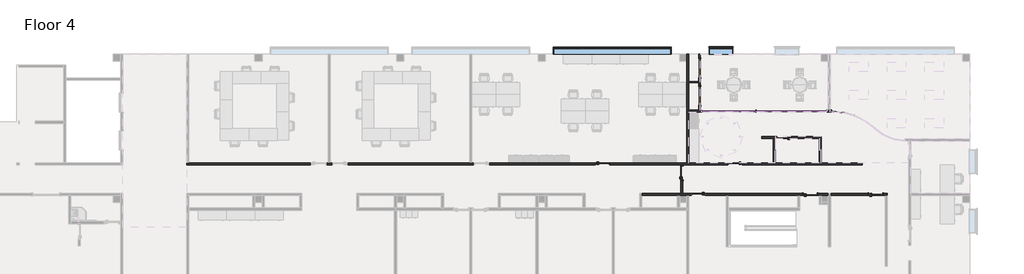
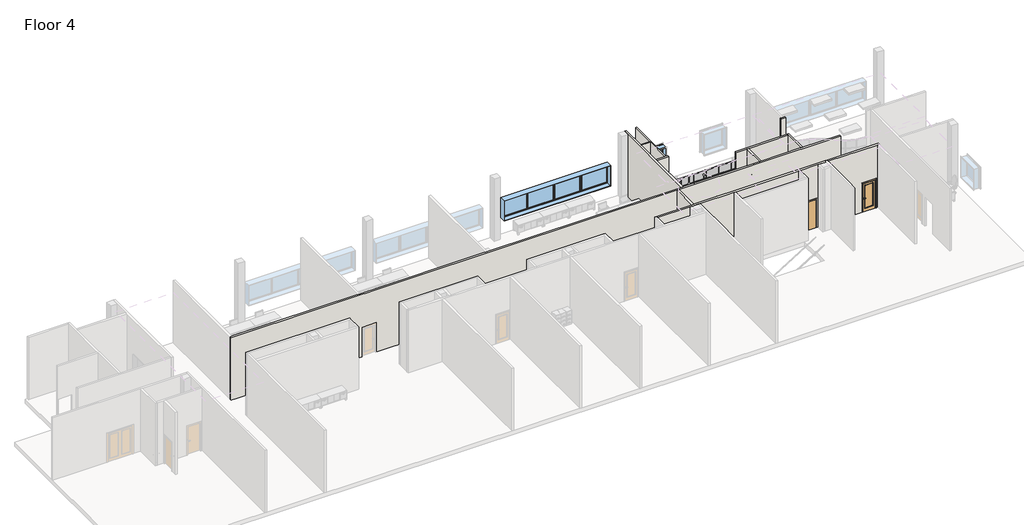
# One storey, part 3 of 6: 50 members, 19 plates, 12 walls, 10 doors, 2 windows.
"""IFC4 building model written with IfcOpenShell, lengths in millimetres."""

from ifc_helpers import new_model, si_unit, frame, origin, place, context, project, spatial, polyline, outline, extrude, faceted_brep, transform, mapped, element, save
from components import door_curtain_wall_single_glass_door_curtain_wall_single_9586b40b, door_f69827bf, door_36f17018, door_a46f4f49, door_4cfbdd5f, door_4a7c4c71, door_b5f71497, door_dac99271, member_997af995, member_2ca0dabc, member_8ca96f9c, member_83dfa611, member_8963dcaa, member_f846ac2e, member_48a22cbc, member_fbd506e6, member_f5b6ef6d, system_panel_glazed_9da17e9e, system_panel_glazed_9f0f34b9, system_panel_glazed_eecf021d, system_panel_glazed_c5d29413, system_panel_glazed_dc5c6d86, system_panel_glazed_1c5266c5, window_casement_multi_sash_horizontal_25_x_5ft_0e5d08e3, window_45f0c9e0

model = new_model("IFC4")

# Units and contexts
model_context = context("Model", 3, world=origin())
ifc_project = project(units=[si_unit("LENGTHUNIT", "METRE", prefix="MILLI")], contexts=[model_context])

# Site, building, storey
site = spatial("IfcSite", under=ifc_project)
building = spatial("IfcBuilding", under=site)
storey = spatial("IfcBuildingStorey", under=building, Name="Floor 4", Elevation=14935.2)

# Doors
placement = place(None, origin())
door_curtain_wall_single_glass_door_curtain_wall_single_shape = door_curtain_wall_single_glass_door_curtain_wall_single_9586b40b(model_context)
element("IfcDoor", 1, ObjectType="Door-Curtain-Wall-Single-Glass : Door-Curtain-Wall-Single-Glass", at=placement, inside=storey, context=model_context, shape_type="MappedRepresentation", body=[
    mapped(door_curtain_wall_single_glass_door_curtain_wall_single_shape, transform((47338.2735924, 53682.111889, 14960.6), x_axis=(-1.0, 0.0, 0.0), y_axis=(0.0, -1.0, 0.0), z_axis=(0.0, 0.0, 1.0))),
])
door_shape = door_f69827bf(model_context)
element("IfcDoor", 2, ObjectType="Door-Double-Flush_Panel : 48\" x 84\"", at=placement, inside=storey, context=model_context, shape_type="MappedRepresentation", body=[
    mapped(door_shape, transform((44045.2192024, 56452.299389, 14935.2), x_axis=(0.0, -1.0, 0.0), y_axis=(1.0, 0.0, 0.0), z_axis=(0.0, 0.0, 1.0))),
])
element("IfcDoor", 3, ObjectType="Door-Double-Flush_Panel : 48\" x 84\"", at=placement, inside=storey, context=model_context, shape_type="MappedRepresentation", body=[
    mapped(door_shape, transform((44045.2192024, 54660.011889, 14935.2), x_axis=(0.0, -1.0, 0.0), y_axis=(1.0, 0.0, 0.0), z_axis=(0.0, 0.0, 1.0))),
])
door_2_shape = door_36f17018(model_context)
element("IfcDoor", 4, ObjectType="Door-Passage-Single-Flush : 36\" x 84\"", at=placement, inside=storey, context=model_context, shape_type="MappedRepresentation", body=[
    mapped(door_2_shape, transform((51188.9692024, 48297.311889, 14935.2), x_axis=(1.0, 0.0, 0.0), y_axis=(0.0, 1.0, 0.0), z_axis=(0.0, 0.0, 1.0))),
])
element("IfcDoor", 5, ObjectType="Door-Passage-Single-Flush : 36\" x 84\"", at=placement, inside=storey, context=model_context, shape_type="MappedRepresentation", body=[
    mapped(door_2_shape, transform((43969.0192024, 48284.611889, 14935.2), x_axis=(-1.0, 0.0, 0.0), y_axis=(0.0, -1.0, 0.0), z_axis=(0.0, 0.0, 1.0))),
])
door_3_shape = door_a46f4f49(model_context)
element("IfcDoor", 6, ObjectType="Door-Passage-Single-Flush : 36\" x 84\"", at=placement, inside=storey, context=model_context, shape_type="MappedRepresentation", body=[
    mapped(door_3_shape, transform((42905.8258878, 49675.261889, 14935.2), x_axis=(0.0, 1.0, 0.0), y_axis=(-1.0, 0.0, 0.0), z_axis=(0.0, 0.0, 1.0))),
])
door_4_shape = door_4cfbdd5f(model_context)
element("IfcDoor", 7, ObjectType="Door-Passage-Single-Full_Lite : 36\" x 84\"", at=placement, inside=storey, context=model_context, shape_type="MappedRepresentation", body=[
    mapped(door_4_shape, transform((46331.2192024, 50253.111889, 14935.2), x_axis=(-1.0, 0.0, 0.0), y_axis=(0.0, -1.0, 0.0), z_axis=(0.0, 0.0, 1.0))),
])
door_5_shape = door_4a7c4c71(model_context)
element("IfcDoor", 8, ObjectType="Door-Passage-Single-Full_Lite : 36\" x 84\"", at=placement, inside=storey, context=model_context, shape_type="MappedRepresentation", body=[
    mapped(door_5_shape, transform((37777.7692024, 50253.111889, 14935.2), x_axis=(1.0, 0.0, 0.0), y_axis=(0.0, 1.0, 0.0), z_axis=(0.0, 0.0, 1.0))),
])
door_6_shape = door_b5f71497(model_context)
element("IfcDoor", 9, ObjectType="Door-Passage-Single-Full_Lite : 36\" x 84\"", at=placement, inside=storey, context=model_context, shape_type="MappedRepresentation", body=[
    mapped(door_6_shape, transform((55424.4192024, 48297.311889, 14935.2), x_axis=(1.0, 0.0, 0.0), y_axis=(0.0, 1.0, 0.0), z_axis=(0.0, 0.0, 1.0))),
])
door_7_shape = door_dac99271(model_context)
element("IfcDoor", 10, ObjectType="Door-Passage-Single-Full_Lite : 36\" x 84\"", at=placement, inside=storey, context=model_context, shape_type="MappedRepresentation", body=[
    mapped(door_7_shape, transform((49487.1692024, 51966.0929346, 14935.2), x_axis=(-1.0, 0.0, 0.0), y_axis=(0.0, -1.0, 0.0), z_axis=(0.0, 0.0, 1.0))),
])

# Members
member_shape = member_997af995(model_context)
element("IfcMember", 11, ObjectType="Rectangular Mullion1 : 1\" Square", at=placement, inside=storey, context=model_context, shape_type="MappedRepresentation", body=[
    mapped(member_shape, transform((51376.2578078, 53682.111889, 14960.6), x_axis=(-1.0, 0.0, 0.0), y_axis=(0.0, 1.0, 0.0), z_axis=(0.0, 0.0, -1.0))),
])
element("IfcMember", 12, ObjectType="Rectangular Mullion1 : 1\" Square", at=placement, inside=storey, context=model_context, shape_type="MappedRepresentation", body=[
    mapped(member_shape, transform((50478.9279821, 53682.111889, 14960.6), x_axis=(-1.0, 0.0, 0.0), y_axis=(0.0, 1.0, 0.0), z_axis=(0.0, 0.0, -1.0))),
])
element("IfcMember", 13, ObjectType="Rectangular Mullion1 : 1\" Square", at=placement, inside=storey, context=model_context, shape_type="MappedRepresentation", body=[
    mapped(member_shape, transform((49581.5981565, 53682.111889, 14960.6), x_axis=(-1.0, 0.0, 0.0), y_axis=(0.0, 1.0, 0.0), z_axis=(0.0, 0.0, -1.0))),
])
element("IfcMember", 14, ObjectType="Rectangular Mullion1 : 1\" Square", at=placement, inside=storey, context=model_context, shape_type="MappedRepresentation", body=[
    mapped(member_shape, transform((48684.2683309, 53682.111889, 14960.6), x_axis=(-1.0, 0.0, 0.0), y_axis=(0.0, 1.0, 0.0), z_axis=(0.0, 0.0, -1.0))),
])
element("IfcMember", 15, ObjectType="Rectangular Mullion1 : 1\" Square", at=placement, inside=storey, context=model_context, shape_type="MappedRepresentation", body=[
    mapped(member_shape, transform((47786.9385052, 53682.111889, 14960.6), x_axis=(-1.0, 0.0, 0.0), y_axis=(0.0, 1.0, 0.0), z_axis=(0.0, 0.0, -1.0))),
])
element("IfcMember", 16, ObjectType="Rectangular Mullion1 : 1\" Square", at=placement, inside=storey, context=model_context, shape_type="MappedRepresentation", body=[
    mapped(member_shape, transform((46889.6086796, 53682.111889, 14960.6), x_axis=(-1.0, 0.0, 0.0), y_axis=(0.0, 1.0, 0.0), z_axis=(0.0, 0.0, -1.0))),
])
element("IfcMember", 17, ObjectType="Rectangular Mullion1 : 1\" Square", at=placement, inside=storey, context=model_context, shape_type="MappedRepresentation", body=[
    mapped(member_shape, transform((45992.2788539, 53682.111889, 14960.6), x_axis=(-1.0, 0.0, 0.0), y_axis=(0.0, 1.0, 0.0), z_axis=(0.0, 0.0, -1.0))),
])
element("IfcMember", 18, ObjectType="Rectangular Mullion1 : 1\" Square", at=placement, inside=storey, context=model_context, shape_type="MappedRepresentation", body=[
    mapped(member_shape, transform((45094.9490283, 53682.111889, 14960.6), x_axis=(-1.0, 0.0, 0.0), y_axis=(0.0, 1.0, 0.0), z_axis=(0.0, 0.0, -1.0))),
])
member_2_shape = member_2ca0dabc(model_context)
element("IfcMember", 19, ObjectType="Rectangular Mullion1 : 1\" Square", at=placement, inside=storey, context=model_context, shape_type="MappedRepresentation", body=[
    mapped(member_2_shape, transform((52578.3876337, 53682.111889, 14960.6), x_axis=(-0.9954937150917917, 0.09482754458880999, 0.0), y_axis=(0.09482754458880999, 0.9954937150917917, 0.0), z_axis=(0.0, 0.0, -1.0))),
])
element("IfcMember", 20, ObjectType="Rectangular Mullion1 : 1\" Square", at=placement, inside=storey, context=model_context, shape_type="MappedRepresentation", body=[
    mapped(member_2_shape, transform((44197.6192024, 53682.111889, 14960.6), x_axis=(-1.0, 0.0, 0.0), y_axis=(0.0, 1.0, 0.0), z_axis=(0.0, 0.0, -1.0))),
])
element("IfcMember", 21, ObjectType="Rectangular Mullion1 : 1\" Square", at=placement, inside=storey, context=model_context, shape_type="MappedRepresentation", body=[
    mapped(member_2_shape, transform((52273.5876337, 53682.111889, 17068.8), x_axis=(1.0, 0.0, 0.0), y_axis=(0.0, 1.0, 0.0), z_axis=(0.0, 0.0, 1.0))),
])
member_3_shape = member_8ca96f9c(model_context)
element("IfcMember", 22, ObjectType="Rectangular Mullion1 : 1\" Square", at=placement, inside=storey, context=model_context, shape_type="MappedRepresentation", body=[
    mapped(member_3_shape, transform((51376.2578078, 53682.111889, 17081.5), x_axis=(-1.0, 0.0, 0.0), y_axis=(0.0, 1.0, 0.0), z_axis=(0.0, 0.0, -1.0))),
])
element("IfcMember", 23, ObjectType="Rectangular Mullion1 : 1\" Square", at=placement, inside=storey, context=model_context, shape_type="MappedRepresentation", body=[
    mapped(member_3_shape, transform((50478.9279821, 53682.111889, 17081.5), x_axis=(-1.0, 0.0, 0.0), y_axis=(0.0, 1.0, 0.0), z_axis=(0.0, 0.0, -1.0))),
])
element("IfcMember", 24, ObjectType="Rectangular Mullion1 : 1\" Square", at=placement, inside=storey, context=model_context, shape_type="MappedRepresentation", body=[
    mapped(member_3_shape, transform((49581.5981565, 53682.111889, 17081.5), x_axis=(-1.0, 0.0, 0.0), y_axis=(0.0, 1.0, 0.0), z_axis=(0.0, 0.0, -1.0))),
])
element("IfcMember", 25, ObjectType="Rectangular Mullion1 : 1\" Square", at=placement, inside=storey, context=model_context, shape_type="MappedRepresentation", body=[
    mapped(member_3_shape, transform((48684.2683309, 53682.111889, 17081.5), x_axis=(-1.0, 0.0, 0.0), y_axis=(0.0, 1.0, 0.0), z_axis=(0.0, 0.0, -1.0))),
])
element("IfcMember", 26, ObjectType="Rectangular Mullion1 : 1\" Square", at=placement, inside=storey, context=model_context, shape_type="MappedRepresentation", body=[
    mapped(member_3_shape, transform((47786.9385052, 53682.111889, 17081.5), x_axis=(-1.0, 0.0, 0.0), y_axis=(0.0, 1.0, 0.0), z_axis=(0.0, 0.0, -1.0))),
])
element("IfcMember", 27, ObjectType="Rectangular Mullion1 : 1\" Square", at=placement, inside=storey, context=model_context, shape_type="MappedRepresentation", body=[
    mapped(member_3_shape, transform((46889.6086796, 53682.111889, 17081.5), x_axis=(-1.0, 0.0, 0.0), y_axis=(0.0, 1.0, 0.0), z_axis=(0.0, 0.0, -1.0))),
])
element("IfcMember", 28, ObjectType="Rectangular Mullion1 : 1\" Square", at=placement, inside=storey, context=model_context, shape_type="MappedRepresentation", body=[
    mapped(member_3_shape, transform((45992.2788539, 53682.111889, 17081.5), x_axis=(-1.0, 0.0, 0.0), y_axis=(0.0, 1.0, 0.0), z_axis=(0.0, 0.0, -1.0))),
])
element("IfcMember", 29, ObjectType="Rectangular Mullion1 : 1\" Square", at=placement, inside=storey, context=model_context, shape_type="MappedRepresentation", body=[
    mapped(member_3_shape, transform((45094.9490283, 53682.111889, 17081.5), x_axis=(-1.0, 0.0, 0.0), y_axis=(0.0, 1.0, 0.0), z_axis=(0.0, 0.0, -1.0))),
])
member_4_shape = member_83dfa611(model_context)
element("IfcMember", 30, ObjectType="Rectangular Mullion1 : 1\" Square", at=placement, inside=storey, context=model_context, shape_type="MappedRepresentation", body=[
    mapped(member_4_shape, transform((52603.6731741, 53679.7032694, 17068.8), x_axis=(0.0, 0.0, 1.0), y_axis=(0.09482754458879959, 0.9954937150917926, 0.0), z_axis=(-0.9954937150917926, 0.09482754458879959, 0.0))),
])
member_5_shape = member_8963dcaa(model_context)
element("IfcMember", 31, ObjectType="Rectangular Mullion1 : 1\" Square", at=placement, inside=storey, context=model_context, shape_type="MappedRepresentation", body=[
    mapped(member_5_shape, transform((52273.5876337, 53682.111889, 17653.0), x_axis=(1.0, 0.0, 0.0), y_axis=(0.0, 1.0, 0.0), z_axis=(0.0, 0.0, 1.0))),
])
element("IfcMember", 32, ObjectType="Rectangular Mullion1 : 1\" Square", at=placement, inside=storey, context=model_context, shape_type="MappedRepresentation", body=[
    mapped(member_5_shape, transform((52578.3876337, 53682.111889, 17068.8), x_axis=(-0.9954937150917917, 0.09482754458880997, 0.0), y_axis=(0.09482754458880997, 0.9954937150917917, 0.0), z_axis=(0.0, 0.0, -1.0))),
])
element("IfcMember", 33, ObjectType="Rectangular Mullion1 : 1\" Square", at=placement, inside=storey, context=model_context, shape_type="MappedRepresentation", body=[
    mapped(member_5_shape, transform((44197.6192024, 53682.111889, 17068.8), x_axis=(-1.0, 0.0, 0.0), y_axis=(0.0, 1.0, 0.0), z_axis=(0.0, 0.0, -1.0))),
])
member_6_shape = member_f846ac2e(model_context)
element("IfcMember", 34, ObjectType="Rectangular Mullion1 : 1\" Square", at=placement, inside=storey, context=model_context, shape_type="MappedRepresentation", body=[
    mapped(member_6_shape, transform((52273.5876337, 53682.111889, 14935.2), x_axis=(0.0, 0.0, -1.0), y_axis=(0.0, 1.0, 0.0), z_axis=(1.0, 0.0, 0.0))),
])
member_7_shape = member_48a22cbc(model_context)
element("IfcMember", 35, ObjectType="Rectangular Mullion1 : 1\" Square", at=placement, inside=storey, context=model_context, shape_type="MappedRepresentation", body=[
    mapped(member_7_shape, transform((51376.2578078, 53682.111889, 14935.2), x_axis=(0.0, 0.0, -1.0), y_axis=(0.0, 1.0, 0.0), z_axis=(1.0, 0.0, 0.0))),
])
element("IfcMember", 36, ObjectType="Rectangular Mullion1 : 1\" Square", at=placement, inside=storey, context=model_context, shape_type="MappedRepresentation", body=[
    mapped(member_7_shape, transform((50478.9279821, 53682.111889, 14935.2), x_axis=(0.0, 0.0, -1.0), y_axis=(0.0, 1.0, 0.0), z_axis=(1.0, 0.0, 0.0))),
])
element("IfcMember", 37, ObjectType="Rectangular Mullion1 : 1\" Square", at=placement, inside=storey, context=model_context, shape_type="MappedRepresentation", body=[
    mapped(member_7_shape, transform((49581.5981565, 53682.111889, 14935.2), x_axis=(0.0, 0.0, -1.0), y_axis=(0.0, 1.0, 0.0), z_axis=(1.0, 0.0, 0.0))),
])
element("IfcMember", 38, ObjectType="Rectangular Mullion1 : 1\" Square", at=placement, inside=storey, context=model_context, shape_type="MappedRepresentation", body=[
    mapped(member_7_shape, transform((48684.2683309, 53682.111889, 14935.2), x_axis=(0.0, 0.0, -1.0), y_axis=(0.0, 1.0, 0.0), z_axis=(1.0, 0.0, 0.0))),
])
element("IfcMember", 39, ObjectType="Rectangular Mullion1 : 1\" Square", at=placement, inside=storey, context=model_context, shape_type="MappedRepresentation", body=[
    mapped(member_7_shape, transform((47786.9385052, 53682.111889, 14935.2), x_axis=(0.0, 0.0, -1.0), y_axis=(0.0, 1.0, 0.0), z_axis=(1.0, 0.0, 0.0))),
])
element("IfcMember", 40, ObjectType="Rectangular Mullion1 : 1\" Square", at=placement, inside=storey, context=model_context, shape_type="MappedRepresentation", body=[
    mapped(member_7_shape, transform((46889.6086796, 53682.111889, 14935.2), x_axis=(0.0, 0.0, -1.0), y_axis=(0.0, 1.0, 0.0), z_axis=(1.0, 0.0, 0.0))),
])
element("IfcMember", 41, ObjectType="Rectangular Mullion1 : 1\" Square", at=placement, inside=storey, context=model_context, shape_type="MappedRepresentation", body=[
    mapped(member_7_shape, transform((45992.2788539, 53682.111889, 14935.2), x_axis=(0.0, 0.0, -1.0), y_axis=(0.0, 1.0, 0.0), z_axis=(1.0, 0.0, 0.0))),
])
element("IfcMember", 42, ObjectType="Rectangular Mullion1 : 1\" Square", at=placement, inside=storey, context=model_context, shape_type="MappedRepresentation", body=[
    mapped(member_6_shape, transform((45094.9490283, 53682.111889, 14935.2), x_axis=(0.0, 0.0, -1.0), y_axis=(0.0, 1.0, 0.0), z_axis=(1.0, 0.0, 0.0))),
])
member_8_shape = member_fbd506e6(model_context)
element("IfcMember", 43, ObjectType="Rectangular Mullion1 : 1\" Square", at=placement, inside=storey, context=model_context, shape_type="MappedRepresentation", body=[
    mapped(member_8_shape, transform((51376.2578078, 53682.111889, 17068.8), x_axis=(0.0, 0.0, 1.0), y_axis=(0.0, 1.0, 0.0), z_axis=(-1.0, 0.0, 0.0))),
])
member_9_shape = member_f5b6ef6d(model_context)
element("IfcMember", 44, ObjectType="Rectangular Mullion1 : 1\" Square", at=placement, inside=storey, context=model_context, shape_type="MappedRepresentation", body=[
    mapped(member_9_shape, transform((50478.9279821, 53682.111889, 17068.8), x_axis=(0.0, 0.0, 1.0), y_axis=(0.0, 1.0, 0.0), z_axis=(-1.0, 0.0, 0.0))),
])
element("IfcMember", 45, ObjectType="Rectangular Mullion1 : 1\" Square", at=placement, inside=storey, context=model_context, shape_type="MappedRepresentation", body=[
    mapped(member_9_shape, transform((49581.5981565, 53682.111889, 17068.8), x_axis=(0.0, 0.0, 1.0), y_axis=(0.0, 1.0, 0.0), z_axis=(-1.0, 0.0, 0.0))),
])
element("IfcMember", 46, ObjectType="Rectangular Mullion1 : 1\" Square", at=placement, inside=storey, context=model_context, shape_type="MappedRepresentation", body=[
    mapped(member_9_shape, transform((48684.2683309, 53682.111889, 17068.8), x_axis=(0.0, 0.0, 1.0), y_axis=(0.0, 1.0, 0.0), z_axis=(-1.0, 0.0, 0.0))),
])
element("IfcMember", 47, ObjectType="Rectangular Mullion1 : 1\" Square", at=placement, inside=storey, context=model_context, shape_type="MappedRepresentation", body=[
    mapped(member_9_shape, transform((47786.9385052, 53682.111889, 17068.8), x_axis=(0.0, 0.0, 1.0), y_axis=(0.0, 1.0, 0.0), z_axis=(-1.0, 0.0, 0.0))),
])
element("IfcMember", 48, ObjectType="Rectangular Mullion1 : 1\" Square", at=placement, inside=storey, context=model_context, shape_type="MappedRepresentation", body=[
    mapped(member_9_shape, transform((46889.6086796, 53682.111889, 17068.8), x_axis=(0.0, 0.0, 1.0), y_axis=(0.0, 1.0, 0.0), z_axis=(-1.0, 0.0, 0.0))),
])
element("IfcMember", 49, ObjectType="Rectangular Mullion1 : 1\" Square", at=placement, inside=storey, context=model_context, shape_type="MappedRepresentation", body=[
    mapped(member_9_shape, transform((45992.2788539, 53682.111889, 17068.8), x_axis=(0.0, 0.0, 1.0), y_axis=(0.0, 1.0, 0.0), z_axis=(-1.0, 0.0, 0.0))),
])
element("IfcMember", 50, ObjectType="Rectangular Mullion1 : 1\" Square", at=placement, inside=storey, context=model_context, shape_type="MappedRepresentation", body=[
    mapped(member_9_shape, transform((45094.9490283, 53682.111889, 17068.8), x_axis=(0.0, 0.0, 1.0), y_axis=(0.0, 1.0, 0.0), z_axis=(-1.0, 0.0, 0.0))),
])
element("IfcMember", 51, ObjectType="Rectangular Mullion1 : 1\" Square", at=placement, inside=storey, context=model_context, shape_type="MappedRepresentation", body=[
    mapped(member_8_shape, transform((44223.0192024, 53682.111889, 17068.8), x_axis=(0.0, 0.0, 1.0), y_axis=(0.0, 1.0, 0.0), z_axis=(-1.0, 0.0, 0.0))),
])
element("IfcMember", 52, ObjectType="Rectangular Mullion1 : 1\" Square", at=placement, inside=storey, context=model_context, shape_type="MappedRepresentation", body=[
    mapped(member_6_shape, transform((44197.6192024, 53682.111889, 17678.4), x_axis=(0.0, 0.0, 1.0), y_axis=(0.0, 1.0, 0.0), z_axis=(-1.0, 0.0, 0.0))),
])
element("IfcMember", 53, ObjectType="Rectangular Mullion1 : 1\" Square", at=placement, inside=storey, context=model_context, shape_type="MappedRepresentation", body=[
    mapped(member_6_shape, transform((51376.2578078, 53682.111889, 17678.4), x_axis=(0.0, 0.0, 1.0), y_axis=(0.0, 1.0, 0.0), z_axis=(-1.0, 0.0, 0.0))),
])
element("IfcMember", 54, ObjectType="Rectangular Mullion1 : 1\" Square", at=placement, inside=storey, context=model_context, shape_type="MappedRepresentation", body=[
    mapped(member_7_shape, transform((50478.9279821, 53682.111889, 17678.4), x_axis=(0.0, 0.0, 1.0), y_axis=(0.0, 1.0, 0.0), z_axis=(-1.0, 0.0, 0.0))),
])
element("IfcMember", 55, ObjectType="Rectangular Mullion1 : 1\" Square", at=placement, inside=storey, context=model_context, shape_type="MappedRepresentation", body=[
    mapped(member_7_shape, transform((49581.5981565, 53682.111889, 17678.4), x_axis=(0.0, 0.0, 1.0), y_axis=(0.0, 1.0, 0.0), z_axis=(-1.0, 0.0, 0.0))),
])
element("IfcMember", 56, ObjectType="Rectangular Mullion1 : 1\" Square", at=placement, inside=storey, context=model_context, shape_type="MappedRepresentation", body=[
    mapped(member_7_shape, transform((48684.2683309, 53682.111889, 17678.4), x_axis=(0.0, 0.0, 1.0), y_axis=(0.0, 1.0, 0.0), z_axis=(-1.0, 0.0, 0.0))),
])
element("IfcMember", 57, ObjectType="Rectangular Mullion1 : 1\" Square", at=placement, inside=storey, context=model_context, shape_type="MappedRepresentation", body=[
    mapped(member_7_shape, transform((47786.9385052, 53682.111889, 17678.4), x_axis=(0.0, 0.0, 1.0), y_axis=(0.0, 1.0, 0.0), z_axis=(-1.0, 0.0, 0.0))),
])
element("IfcMember", 58, ObjectType="Rectangular Mullion1 : 1\" Square", at=placement, inside=storey, context=model_context, shape_type="MappedRepresentation", body=[
    mapped(member_7_shape, transform((46889.6086796, 53682.111889, 17678.4), x_axis=(0.0, 0.0, 1.0), y_axis=(0.0, 1.0, 0.0), z_axis=(-1.0, 0.0, 0.0))),
])
element("IfcMember", 59, ObjectType="Rectangular Mullion1 : 1\" Square", at=placement, inside=storey, context=model_context, shape_type="MappedRepresentation", body=[
    mapped(member_7_shape, transform((45992.2788539, 53682.111889, 17678.4), x_axis=(0.0, 0.0, 1.0), y_axis=(0.0, 1.0, 0.0), z_axis=(-1.0, 0.0, 0.0))),
])
element("IfcMember", 60, ObjectType="Rectangular Mullion1 : 1\" Square", at=placement, inside=storey, context=model_context, shape_type="MappedRepresentation", body=[
    mapped(member_7_shape, transform((45094.9490283, 53682.111889, 17678.4), x_axis=(0.0, 0.0, 1.0), y_axis=(0.0, 1.0, 0.0), z_axis=(-1.0, 0.0, 0.0))),
])

# Plates
system_panel_glazed_shape = system_panel_glazed_9da17e9e(model_context)
element("IfcPlate", 61, ObjectType="System Panel : Glazed", at=placement, inside=storey, context=model_context, shape_type="MappedRepresentation", body=[
    mapped(system_panel_glazed_shape, transform((52977.9425946, 53644.0515625, 14960.6), x_axis=(-0.9954937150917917, 0.09482754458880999, 0.0), y_axis=(-0.09482754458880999, -0.9954937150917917, 0.0), z_axis=(0.0, 0.0, 1.0))),
])
system_panel_glazed_2_shape = system_panel_glazed_9f0f34b9(model_context)
element("IfcPlate", 62, ObjectType="System Panel : Glazed", at=placement, inside=storey, context=model_context, shape_type="MappedRepresentation", body=[
    mapped(system_panel_glazed_2_shape, transform((52977.9425946, 53644.0515625, 17081.5), x_axis=(-0.9954937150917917, 0.09482754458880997, 0.0), y_axis=(-0.09482754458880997, -0.9954937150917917, 0.0), z_axis=(0.0, 0.0, 1.0))),
])
system_panel_glazed_3_shape = system_panel_glazed_eecf021d(model_context)
element("IfcPlate", 63, ObjectType="System Panel : Glazed", at=placement, inside=storey, context=model_context, shape_type="MappedRepresentation", body=[
    mapped(system_panel_glazed_3_shape, transform((51818.5727207, 53682.111889, 14960.6), x_axis=(-1.0, 0.0, 0.0), y_axis=(0.0, -1.0, 0.0), z_axis=(0.0, 0.0, 1.0))),
])
element("IfcPlate", 64, ObjectType="System Panel : Glazed", at=placement, inside=storey, context=model_context, shape_type="MappedRepresentation", body=[
    mapped(system_panel_glazed_3_shape, transform((44652.6341153, 53682.111889, 14960.6), x_axis=(-1.0, 0.0, 0.0), y_axis=(0.0, -1.0, 0.0), z_axis=(0.0, 0.0, 1.0))),
])
system_panel_glazed_4_shape = system_panel_glazed_c5d29413(model_context)
element("IfcPlate", 65, ObjectType="System Panel : Glazed", at=placement, inside=storey, context=model_context, shape_type="MappedRepresentation", body=[
    mapped(system_panel_glazed_4_shape, transform((50927.5928949, 53682.111889, 14960.6), x_axis=(-1.0, 0.0, 0.0), y_axis=(0.0, -1.0, 0.0), z_axis=(0.0, 0.0, 1.0))),
])
element("IfcPlate", 66, ObjectType="System Panel : Glazed", at=placement, inside=storey, context=model_context, shape_type="MappedRepresentation", body=[
    mapped(system_panel_glazed_4_shape, transform((50030.2630693, 53682.111889, 14960.6), x_axis=(-1.0, 0.0, 0.0), y_axis=(0.0, -1.0, 0.0), z_axis=(0.0, 0.0, 1.0))),
])
element("IfcPlate", 67, ObjectType="System Panel : Glazed", at=placement, inside=storey, context=model_context, shape_type="MappedRepresentation", body=[
    mapped(system_panel_glazed_4_shape, transform((49132.9332437, 53682.111889, 14960.6), x_axis=(-1.0, 0.0, 0.0), y_axis=(0.0, -1.0, 0.0), z_axis=(0.0, 0.0, 1.0))),
])
element("IfcPlate", 68, ObjectType="System Panel : Glazed", at=placement, inside=storey, context=model_context, shape_type="MappedRepresentation", body=[
    mapped(system_panel_glazed_4_shape, transform((48235.603418, 53682.111889, 14960.6), x_axis=(-1.0, 0.0, 0.0), y_axis=(0.0, -1.0, 0.0), z_axis=(0.0, 0.0, 1.0))),
])
element("IfcPlate", 69, ObjectType="System Panel : Glazed", at=placement, inside=storey, context=model_context, shape_type="MappedRepresentation", body=[
    mapped(system_panel_glazed_4_shape, transform((46440.9437668, 53682.111889, 14960.6), x_axis=(-1.0, 0.0, 0.0), y_axis=(0.0, -1.0, 0.0), z_axis=(0.0, 0.0, 1.0))),
])
element("IfcPlate", 70, ObjectType="System Panel : Glazed", at=placement, inside=storey, context=model_context, shape_type="MappedRepresentation", body=[
    mapped(system_panel_glazed_4_shape, transform((45543.6139411, 53682.111889, 14960.6), x_axis=(-1.0, 0.0, 0.0), y_axis=(0.0, -1.0, 0.0), z_axis=(0.0, 0.0, 1.0))),
])
system_panel_glazed_5_shape = system_panel_glazed_dc5c6d86(model_context)
element("IfcPlate", 71, ObjectType="System Panel : Glazed", at=placement, inside=storey, context=model_context, shape_type="MappedRepresentation", body=[
    mapped(system_panel_glazed_5_shape, transform((51818.5727207, 53682.111889, 17081.5), x_axis=(-1.0, 0.0, 0.0), y_axis=(0.0, -1.0, 0.0), z_axis=(0.0, 0.0, 1.0))),
])
element("IfcPlate", 72, ObjectType="System Panel : Glazed", at=placement, inside=storey, context=model_context, shape_type="MappedRepresentation", body=[
    mapped(system_panel_glazed_5_shape, transform((44652.6341153, 53682.111889, 17081.5), x_axis=(-1.0, 0.0, 0.0), y_axis=(0.0, -1.0, 0.0), z_axis=(0.0, 0.0, 1.0))),
])
system_panel_glazed_6_shape = system_panel_glazed_1c5266c5(model_context)
element("IfcPlate", 73, ObjectType="System Panel : Glazed", at=placement, inside=storey, context=model_context, shape_type="MappedRepresentation", body=[
    mapped(system_panel_glazed_6_shape, transform((50927.5928949, 53682.111889, 17081.5), x_axis=(-1.0, 0.0, 0.0), y_axis=(0.0, -1.0, 0.0), z_axis=(0.0, 0.0, 1.0))),
])
element("IfcPlate", 74, ObjectType="System Panel : Glazed", at=placement, inside=storey, context=model_context, shape_type="MappedRepresentation", body=[
    mapped(system_panel_glazed_6_shape, transform((50030.2630693, 53682.111889, 17081.5), x_axis=(-1.0, 0.0, 0.0), y_axis=(0.0, -1.0, 0.0), z_axis=(0.0, 0.0, 1.0))),
])
element("IfcPlate", 75, ObjectType="System Panel : Glazed", at=placement, inside=storey, context=model_context, shape_type="MappedRepresentation", body=[
    mapped(system_panel_glazed_6_shape, transform((49132.9332437, 53682.111889, 17081.5), x_axis=(-1.0, 0.0, 0.0), y_axis=(0.0, -1.0, 0.0), z_axis=(0.0, 0.0, 1.0))),
])
element("IfcPlate", 76, ObjectType="System Panel : Glazed", at=placement, inside=storey, context=model_context, shape_type="MappedRepresentation", body=[
    mapped(system_panel_glazed_6_shape, transform((48235.603418, 53682.111889, 17081.5), x_axis=(-1.0, 0.0, 0.0), y_axis=(0.0, -1.0, 0.0), z_axis=(0.0, 0.0, 1.0))),
])
element("IfcPlate", 77, ObjectType="System Panel : Glazed", at=placement, inside=storey, context=model_context, shape_type="MappedRepresentation", body=[
    mapped(system_panel_glazed_6_shape, transform((47338.2735924, 53682.111889, 17081.5), x_axis=(-1.0, 0.0, 0.0), y_axis=(0.0, -1.0, 0.0), z_axis=(0.0, 0.0, 1.0))),
])
element("IfcPlate", 78, ObjectType="System Panel : Glazed", at=placement, inside=storey, context=model_context, shape_type="MappedRepresentation", body=[
    mapped(system_panel_glazed_6_shape, transform((46440.9437668, 53682.111889, 17081.5), x_axis=(-1.0, 0.0, 0.0), y_axis=(0.0, -1.0, 0.0), z_axis=(0.0, 0.0, 1.0))),
])
element("IfcPlate", 79, ObjectType="System Panel : Glazed", at=placement, inside=storey, context=model_context, shape_type="MappedRepresentation", body=[
    mapped(system_panel_glazed_6_shape, transform((45543.6139411, 53682.111889, 17081.5), x_axis=(-1.0, 0.0, 0.0), y_axis=(0.0, -1.0, 0.0), z_axis=(0.0, 0.0, 1.0))),
])

# Walls
element("IfcWall", 80, ObjectType="Interior - 3 1/8\" Partition (1-hr)", at=placement, inside=storey, context=model_context, shape_type="Brep", body=[
    faceted_brep([(44084.9067024, 53744.024389, 19659.6), (44084.9067024, 57366.699389, 19659.6), (44005.5317024, 57366.699389, 19659.6), (44005.5317024, 55595.843139, 19659.6), (44005.5317024, 55516.468139, 19659.6), (44005.5317024, 53744.024389, 19659.6), (44005.5317024, 57366.699389, 14935.2), (44005.5317024, 57061.899389, 14935.2), (44005.5317024, 57061.899389, 17068.8), (44005.5317024, 55842.699389, 17068.8), (44005.5317024, 55842.699389, 14935.2), (44005.5317024, 55595.843139, 14935.2), (44005.5317024, 55516.468139, 14935.2), (44005.5317024, 55269.611889, 14935.2), (44005.5317024, 55269.611889, 17068.8), (44005.5317024, 54050.411889, 17068.8), (44005.5317024, 54050.411889, 14935.2), (44005.5317024, 53744.024389, 14935.2), (44084.9067024, 53744.024389, 14935.2), (44084.9067024, 54050.411889, 14935.2), (44084.9067024, 54050.411889, 17068.8), (44084.9067024, 55269.611889, 17068.8), (44084.9067024, 55269.611889, 14935.2), (44084.9067024, 55842.699389, 14935.2), (44084.9067024, 55842.699389, 17068.8), (44084.9067024, 57061.899389, 17068.8), (44084.9067024, 57061.899389, 14935.2), (44084.9067024, 57366.699389, 14935.2)], [[[0, 1, 2, 3, 4, 5]], [[5, 4, 3, 2, 6, 7, 8, 9, 10, 11, 12, 13, 14, 15, 16, 17]], [[1, 0, 18, 19, 20, 21, 22, 23, 24, 25, 26, 27]], [[18, 17, 16, 19]], [[6, 27, 26, 7]], [[10, 23, 22, 13, 12, 11]], [[18, 0, 5, 17]], [[1, 27, 6, 2]], [[9, 24, 23, 10]], [[24, 9, 8, 25]], [[25, 8, 7, 26]], [[15, 20, 19, 16]], [[20, 15, 14, 21]], [[21, 14, 13, 22]]]),
])
element("IfcWall", 81, ObjectType="Interior - 3 1/8\" Partition (1-hr)", at=placement, inside=storey, context=model_context, shape_type="SweptSolid", body=[
    extrude(outline(polyline([(43353.0692024, 55595.843139), (44005.5317024, 55595.843139), (44005.5317024, 55516.468139), (43353.0692024, 55516.468139), (43353.0692024, 55595.843139)])), frame((0.0, 0.0, 14935.2), z_axis=(0.0, 0.0, 1.0), x_axis=(1.0, 0.0, 0.0)), (0.0, 0.0, 1.0), 4724.4),
])
element("IfcWall", 82, ObjectType="Interior - 4 7/8\" Partition (1-hr)", at=placement, inside=storey, context=model_context, shape_type="Brep", body=[
    faceted_brep([(52578.3876337, 53744.024389, 14935.2), (52489.1317024, 53744.024389, 14935.2), (52365.3067024, 53744.024389, 14935.2), (52273.5876337, 53744.024389, 14935.2), (52273.5876337, 53744.024389, 19659.6), (52365.3067024, 53744.024389, 19659.6), (52489.1317024, 53744.024389, 19659.6), (52578.3876337, 53744.024389, 19659.6), (52578.3876337, 53620.199389, 14935.2), (52578.3876337, 53620.199389, 19659.6), (52273.5876337, 53620.199389, 19659.6), (52273.5876337, 53620.199389, 14935.2)], [[[0, 1, 2, 3, 4, 5, 6, 7]], [[8, 9, 10, 11]], [[3, 2, 1, 0, 8, 11]], [[4, 3, 11, 10]], [[7, 6, 5, 4, 10, 9]], [[0, 7, 9, 8]]]),
])
element("IfcWall", 83, ObjectType="Interior - 4 7/8\" Partition (1-hr)", at=placement, inside=storey, context=model_context, shape_type="SweptSolid", body=[
    extrude(outline(polyline([(48939.4817024, 51897.8304346), (48939.4817024, 50329.311889), (48815.6567024, 50329.311889), (48815.6567024, 51897.8304346), (48939.4817024, 51897.8304346)])), frame((0.0, 0.0, 14935.2), z_axis=(0.0, 0.0, 1.0), x_axis=(1.0, 0.0, 0.0)), (0.0, 0.0, 1.0), 4724.4),
])
element("IfcWall", 84, ObjectType="Interior - 4 7/8\" Partition (1-hr)", at=placement, inside=storey, context=model_context, shape_type="Brep", body=[
    faceted_brep([(48053.6567024, 52021.6554346, 19659.6), (48053.6567024, 52021.6554346, 14935.2), (48053.6567024, 51897.8304346, 14935.2), (48053.6567024, 51897.8304346, 19659.6), (51768.4067024, 52021.6554346, 19659.6), (48815.6567024, 51897.8304346, 19659.6), (48939.4817024, 51897.8304346, 19659.6), (51768.4067024, 51897.8304346, 19659.6), (48815.6567024, 51897.8304346, 14935.2), (48939.4817024, 51897.8304346, 14935.2), (48979.1692024, 51897.8304346, 14935.2), (48979.1692024, 51897.8304346, 17170.4), (49995.1692024, 51897.8304346, 17170.4), (49995.1692024, 51897.8304346, 14935.2), (51768.4067024, 51897.8304346, 14935.2), (48979.1692024, 52021.6554346, 17170.4), (48979.1692024, 52021.6554346, 14935.2), (51768.4067024, 52021.6554346, 14935.2), (49995.1692024, 52021.6554346, 14935.2), (49995.1692024, 52021.6554346, 17170.4)], [[[0, 1, 2, 3]], [[4, 0, 3, 5, 6, 7]], [[2, 8, 9, 10, 11, 12, 13, 14, 7, 6, 5, 3]], [[15, 16, 1, 0, 4, 17, 18, 19]], [[1, 16, 10, 9, 8, 2]], [[18, 17, 14, 13]], [[17, 4, 7, 14]], [[11, 10, 16, 15]], [[12, 11, 15, 19]], [[13, 12, 19, 18]]]),
])
element("IfcWall", 85, ObjectType="Interior - 4 7/8\" Partition (1-hr)", at=placement, inside=storey, context=model_context, shape_type="Brep", body=[
    faceted_brep([(52509.7692024, 48229.049389, 19659.6), (56048.3067024, 48229.049389, 19659.6), (56172.1317024, 48229.049389, 19659.6), (56172.1317024, 48352.874389, 19659.6), (52509.7692024, 48352.874389, 19659.6), (56172.1317024, 48352.874389, 14935.2), (55932.4192024, 48352.874389, 14935.2), (55932.4192024, 48352.874389, 17170.4), (54916.4192024, 48352.874389, 17170.4), (54916.4192024, 48352.874389, 14935.2), (52509.7692024, 48352.874389, 14935.2), (55932.4192024, 48229.049389, 17170.4), (55932.4192024, 48229.049389, 14935.2), (56048.3067024, 48229.049389, 14935.2), (56172.1317024, 48229.049389, 14935.2), (52509.7692024, 48229.049389, 14935.2), (54916.4192024, 48229.049389, 14935.2), (54916.4192024, 48229.049389, 17170.4)], [[[0, 1, 2, 3, 4]], [[5, 6, 7, 8, 9, 10, 4, 3]], [[11, 12, 13, 14, 2, 1, 0, 15, 16, 17]], [[14, 13, 12, 6, 5]], [[16, 15, 10, 9]], [[15, 0, 4, 10]], [[2, 14, 5, 3]], [[7, 6, 12, 11]], [[8, 7, 11, 17]], [[9, 8, 17, 16]]]),
])
element("IfcWall", 86, ObjectType="Interior - 4 7/8\" Partition (1-hr)", at=placement, inside=storey, context=model_context, shape_type="Brep", body=[
    faceted_brep([(51768.4067024, 52021.6554346, 14935.2), (51768.4067024, 51897.8304346, 14935.2), (51768.4067024, 50329.311889, 14935.2), (51768.4067024, 50329.311889, 19659.6), (51768.4067024, 51897.8304346, 19659.6), (51768.4067024, 52021.6554346, 19659.6), (51892.2317024, 52021.6554346, 14935.2), (51892.2317024, 52021.6554346, 19659.6), (51892.2317024, 50329.311889, 19659.6), (51892.2317024, 50329.311889, 14935.2)], [[[0, 1, 2, 3, 4, 5]], [[6, 7, 8, 9]], [[2, 1, 0, 6, 9]], [[5, 4, 3, 8, 7]], [[0, 5, 7, 6]], [[3, 2, 9, 8]]]),
])
element("IfcWall", 87, ObjectType="Interior - 4 7/8\" Partition (1-hr)", at=placement, inside=storey, context=model_context, shape_type="Brep", body=[
    faceted_brep([(44197.6192024, 53744.024389, 14935.2), (44084.9067024, 53744.024389, 14935.2), (44005.5317024, 53744.024389, 14935.2), (43353.0692024, 53744.024389, 14935.2), (43353.0692024, 53744.024389, 19659.6), (44005.5317024, 53744.024389, 19659.6), (44084.9067024, 53744.024389, 19659.6), (44197.6192024, 53744.024389, 19659.6), (44197.6192024, 53620.199389, 14935.2), (44197.6192024, 53620.199389, 19659.6), (43353.0692024, 53620.199389, 19659.6), (43353.0692024, 53620.199389, 14935.2)], [[[0, 1, 2, 3, 4, 5, 6, 7]], [[8, 9, 10, 11]], [[3, 2, 1, 0, 8, 11]], [[7, 6, 5, 4, 10, 9]], [[0, 7, 9, 8]], [[4, 3, 11, 10]]]),
])
element("IfcWall", 88, ObjectType="Interior - 5 1/2\" Partition (1-hr)", at=placement, inside=storey, context=model_context, shape_type="Brep", body=[
    faceted_brep([(43353.0692024, 50329.311889, 14935.2), (43353.0692024, 53620.199389, 14935.2), (43353.0692024, 53744.024389, 14935.2), (43353.0692024, 55516.468139, 14935.2), (43353.0692024, 55595.843139, 14935.2), (43353.0692024, 57366.699389, 14935.2), (43353.0692024, 57366.699389, 19659.6), (43353.0692024, 55595.843139, 19659.6), (43353.0692024, 55516.468139, 19659.6), (43353.0692024, 53744.024389, 19659.6), (43353.0692024, 53620.199389, 19659.6), (43353.0692024, 50329.311889, 19659.6), (43213.3692024, 50329.311889, 14935.2), (43213.3692024, 50329.311889, 19659.6), (43213.3692024, 56907.911889, 19659.6), (43213.3692024, 57365.111889, 19659.6), (43213.3692024, 57366.699389, 19659.6), (43213.3692024, 57366.699389, 14935.2), (43213.3692024, 57365.111889, 14935.2), (43213.3692024, 56907.911889, 14935.2)], [[[0, 1, 2, 3, 4, 5, 6, 7, 8, 9, 10, 11]], [[12, 13, 14, 15, 16, 17, 18, 19]], [[5, 4, 3, 2, 1, 0, 12, 19, 18, 17]], [[11, 10, 9, 8, 7, 6, 16, 15, 14, 13]], [[0, 11, 13, 12]], [[6, 5, 17, 16]]]),
])
element("IfcWall", 89, ObjectType="Interior - 5 1/2\" Partition (1-hr)", at=placement, inside=storey, context=model_context, shape_type="Brep", body=[
    faceted_brep([(40317.7692024, 48221.111889, 14935.2), (42616.4692024, 48221.111889, 14935.2), (42756.1692024, 48221.111889, 14935.2), (43213.3692024, 48221.111889, 14935.2), (43353.0692024, 48221.111889, 14935.2), (43461.0192024, 48221.111889, 14935.2), (43461.0192024, 48221.111889, 17170.4), (44477.0192024, 48221.111889, 17170.4), (44477.0192024, 48221.111889, 14935.2), (45759.7192024, 48221.111889, 14935.2), (45899.4192024, 48221.111889, 14935.2), (50382.5192024, 48221.111889, 14935.2), (50522.2192024, 48221.111889, 14935.2), (50680.9692024, 48221.111889, 14935.2), (50680.9692024, 48221.111889, 17170.4), (51696.9692024, 48221.111889, 17170.4), (51696.9692024, 48221.111889, 14935.2), (51760.4692024, 48221.111889, 14935.2), (51900.1692024, 48221.111889, 14935.2), (52357.3692024, 48221.111889, 14935.2), (52370.0692024, 48221.111889, 14935.2), (52370.0692024, 48221.111889, 19659.6), (52357.3692024, 48221.111889, 19659.6), (51900.1692024, 48221.111889, 19659.6), (51760.4692024, 48221.111889, 19659.6), (50522.2192024, 48221.111889, 19659.6), (50382.5192024, 48221.111889, 19659.6), (45899.4192024, 48221.111889, 19659.6), (45759.7192024, 48221.111889, 19659.6), (43353.0692024, 48221.111889, 19659.6), (43213.3692024, 48221.111889, 19659.6), (42756.1692024, 48221.111889, 19659.6), (42616.4692024, 48221.111889, 19659.6), (40317.7692024, 48221.111889, 19659.6), (43461.0192024, 48360.811889, 17170.4), (43461.0192024, 48360.811889, 14935.2), (42969.3258878, 48360.811889, 14935.2), (42829.6258878, 48360.811889, 14935.2), (40317.7692024, 48360.811889, 14935.2), (40317.7692024, 48360.811889, 19659.6), (42829.6258878, 48360.811889, 19659.6), (42969.3258878, 48360.811889, 19659.6), (52370.0692024, 48360.811889, 19659.6), (52370.0692024, 48360.811889, 14935.2), (51696.9692024, 48360.811889, 14935.2), (51696.9692024, 48360.811889, 17170.4), (50680.9692024, 48360.811889, 17170.4), (50680.9692024, 48360.811889, 14935.2), (44477.0192024, 48360.811889, 14935.2), (44477.0192024, 48360.811889, 17170.4)], [[[0, 1, 2, 3, 4, 5, 6, 7, 8, 9, 10, 11, 12, 13, 14, 15, 16, 17, 18, 19, 20, 21, 22, 23, 24, 25, 26, 27, 28, 29, 30, 31, 32, 33]], [[34, 35, 36, 37, 38, 39, 40, 41, 42, 43, 44, 45, 46, 47, 48, 49]], [[20, 19, 18, 17, 16, 44, 43]], [[38, 37, 36, 35, 5, 4, 3, 2, 1, 0]], [[48, 47, 13, 12, 11, 10, 9, 8]], [[33, 32, 31, 30, 29, 28, 27, 26, 25, 24, 23, 22, 21, 42, 41, 40, 39]], [[0, 33, 39, 38]], [[21, 20, 43, 42]], [[45, 44, 16, 15]], [[46, 45, 15, 14]], [[47, 46, 14, 13]], [[6, 5, 35, 34]], [[7, 6, 34, 49]], [[8, 7, 49, 48]]]),
])
element("IfcWall", 90, ObjectType="Interior - 5 1/2\" Partition (1-hr)", at=placement, inside=storey, context=model_context, shape_type="Brep", body=[
    faceted_brep([(54541.7692024, 50189.611889, 19659.6), (54541.7692024, 50189.611889, 14935.2), (54541.7692024, 50329.311889, 14935.2), (54541.7692024, 50329.311889, 19659.6), (10910.9192024, 50189.611889, 19659.6), (42829.6258878, 50189.611889, 19659.6), (42969.3258878, 50189.611889, 19659.6), (51892.2317024, 50329.311889, 19659.6), (51768.4067024, 50329.311889, 19659.6), (48939.4817024, 50329.311889, 19659.6), (48815.6567024, 50329.311889, 19659.6), (43353.0692024, 50329.311889, 19659.6), (43213.3692024, 50329.311889, 19659.6), (29338.6192024, 50329.311889, 19659.6), (29198.9192024, 50329.311889, 19659.6), (20194.6192024, 50329.311889, 19659.6), (20054.9192024, 50329.311889, 19659.6), (11050.6192024, 50329.311889, 19659.6), (10910.9192024, 50329.311889, 19659.6), (51892.2317024, 50329.311889, 14935.2), (51768.4067024, 50329.311889, 14935.2), (48939.4817024, 50329.311889, 14935.2), (48815.6567024, 50329.311889, 14935.2), (46839.2192024, 50329.311889, 14935.2), (46839.2192024, 50329.311889, 17170.4), (45823.2192024, 50329.311889, 17170.4), (45823.2192024, 50329.311889, 14935.2), (43353.0692024, 50329.311889, 14935.2), (43213.3692024, 50329.311889, 14935.2), (38285.7692024, 50329.311889, 14935.2), (38285.7692024, 50329.311889, 17170.4), (37269.7692024, 50329.311889, 17170.4), (37269.7692024, 50329.311889, 14935.2), (30462.5692024, 50329.311889, 14935.2), (30462.5692024, 50329.311889, 17170.4), (29446.5692024, 50329.311889, 17170.4), (29446.5692024, 50329.311889, 14935.2), (29338.6192024, 50329.311889, 14935.2), (29198.9192024, 50329.311889, 14935.2), (21318.5692024, 50329.311889, 14935.2), (21318.5692024, 50329.311889, 17170.4), (20302.5692024, 50329.311889, 17170.4), (20302.5692024, 50329.311889, 14935.2), (20194.6192024, 50329.311889, 14935.2), (20054.9192024, 50329.311889, 14935.2), (19946.9692024, 50329.311889, 14935.2), (19946.9692024, 50329.311889, 17170.4), (18930.9692024, 50329.311889, 17170.4), (18930.9692024, 50329.311889, 14935.2), (11050.6192024, 50329.311889, 14935.2), (10910.9192024, 50329.311889, 14935.2), (10910.9192024, 50189.611889, 14935.2), (18930.9692024, 50189.611889, 14935.2), (18930.9692024, 50189.611889, 17170.4), (19946.9692024, 50189.611889, 17170.4), (19946.9692024, 50189.611889, 14935.2), (20302.5692024, 50189.611889, 14935.2), (20302.5692024, 50189.611889, 17170.4), (21318.5692024, 50189.611889, 17170.4), (21318.5692024, 50189.611889, 14935.2), (29446.5692024, 50189.611889, 14935.2), (29446.5692024, 50189.611889, 17170.4), (30462.5692024, 50189.611889, 17170.4), (30462.5692024, 50189.611889, 14935.2), (37269.7692024, 50189.611889, 14935.2), (37269.7692024, 50189.611889, 17170.4), (38285.7692024, 50189.611889, 17170.4), (38285.7692024, 50189.611889, 14935.2), (42829.6258878, 50189.611889, 14935.2), (42969.3258878, 50189.611889, 14935.2), (45823.2192024, 50189.611889, 14935.2), (45823.2192024, 50189.611889, 17170.4), (46839.2192024, 50189.611889, 17170.4), (46839.2192024, 50189.611889, 14935.2)], [[[0, 1, 2, 3]], [[4, 5, 6, 0, 3, 7, 8, 9, 10, 11, 12, 13, 14, 15, 16, 17, 18]], [[3, 2, 19, 20, 21, 22, 23, 24, 25, 26, 27, 28, 29, 30, 31, 32, 33, 34, 35, 36, 37, 38, 39, 40, 41, 42, 43, 44, 45, 46, 47, 48, 49, 50, 18, 17, 16, 15, 14, 13, 12, 11, 10, 9, 8, 7]], [[1, 0, 6, 5, 4, 51, 52, 53, 54, 55, 56, 57, 58, 59, 60, 61, 62, 63, 64, 65, 66, 67, 68, 69, 70, 71, 72, 73]], [[2, 1, 73, 23, 22, 21, 20, 19]], [[51, 50, 49, 48, 52]], [[67, 29, 28, 27, 26, 70, 69, 68]], [[32, 64, 63, 33]], [[55, 45, 44, 43, 42, 56]], [[59, 39, 38, 37, 36, 60]], [[51, 4, 18, 50]], [[66, 30, 29, 67]], [[30, 66, 65, 31]], [[31, 65, 64, 32]], [[25, 71, 70, 26]], [[71, 25, 24, 72]], [[72, 24, 23, 73]], [[54, 46, 45, 55]], [[46, 54, 53, 47]], [[47, 53, 52, 48]], [[41, 57, 56, 42]], [[57, 41, 40, 58]], [[58, 40, 39, 59]], [[35, 61, 60, 36]], [[61, 35, 34, 62]], [[62, 34, 33, 63]]]),
])
element("IfcWall", 91, ObjectType="Interior - 5 1/2\" Partition (1-hr)", at=placement, inside=storey, context=model_context, shape_type="SweptSolid", body=[
    extrude(outline(polyline([(50189.611889, 14935.2), (50183.261889, 14935.2), (50183.261889, 17170.4), (49167.261889, 17170.4), (49167.261889, 14935.2), (48360.811889, 14935.2), (48360.811889, 19659.6), (50189.611889, 19659.6), (50189.611889, 14935.2)])), frame((42829.6258878, 0.0, 0.0), z_axis=(1.0, 0.0, 0.0), x_axis=(0.0, 1.0, 0.0)), (0.0, 0.0, 1.0), 139.7),
])

# Windows
window_casement_multi_sash_horizontal_25_x_5ft_shape = window_casement_multi_sash_horizontal_25_x_5ft_0e5d08e3(model_context)
element("IfcWindow", 92, ObjectType="Window-Casement-Multi-Sash-Horizontal : 25 x 5ft", at=placement, inside=storey, context=model_context, shape_type="MappedRepresentation", body=[
    mapped(window_casement_multi_sash_horizontal_25_x_5ft_shape, transform((38412.7692024, 57593.711889, 14935.2), x_axis=(1.0, 0.0, 0.0), y_axis=(0.0, 1.0, 0.0), z_axis=(0.0, 0.0, 1.0))),
])
window_shape = window_45f0c9e0(model_context)
element("IfcWindow", 93, ObjectType="Window-Fixed : 60\" x 60\"", at=placement, inside=storey, context=model_context, shape_type="MappedRepresentation", body=[
    mapped(window_shape, transform((45423.1692024, 57593.711889, 14935.2), x_axis=(1.0, 0.0, 0.0), y_axis=(0.0, 1.0, 0.0), z_axis=(0.0, 0.0, 1.0))),
])

save(model, "model.ifc")
